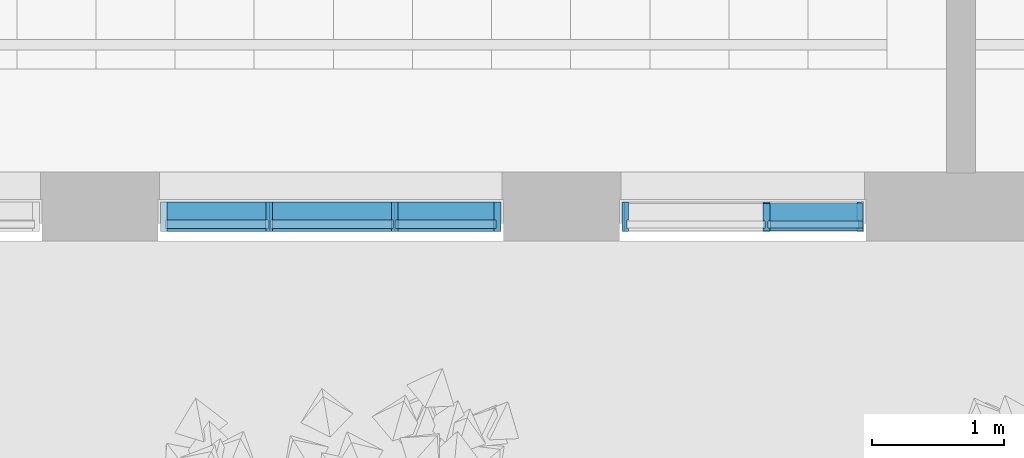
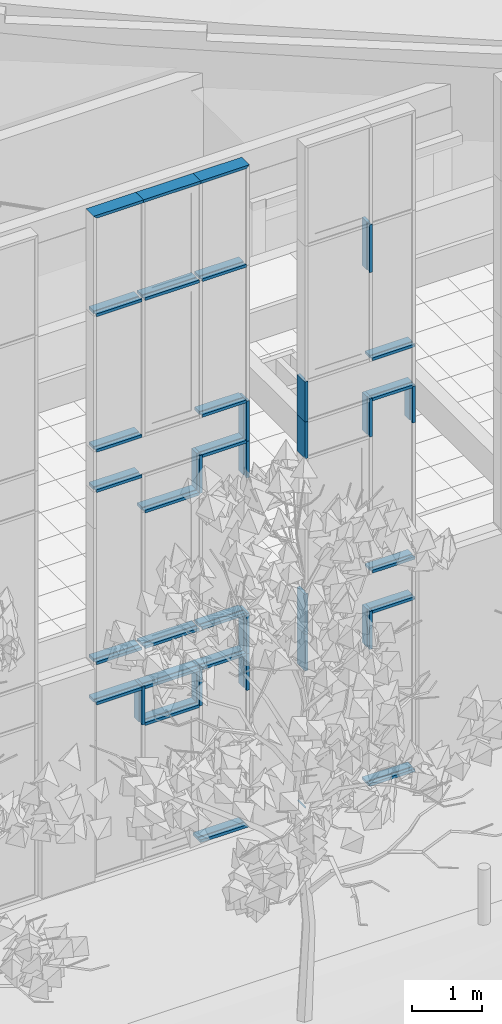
# One storey, part 43 of 246: 40 members, 2 elements without a shape of their own.
"""IFC2X3 building model written with IfcOpenShell, lengths in millimetres."""

from ifc_helpers import new_model, entity, si_unit, converted_unit, derived_unit, money_unit, direction, frame, origin_with_axes, place, context, subcontext, project, spatial, faceted_brep, source, transform, mapped, material, type_object, element, aggregate, save


model = new_model("IFC2X3")

# Units and contexts
model_context = context("Model", 3, precision=0.01, world=origin_with_axes(), true_north=direction((0.0, 1.0)))
body_context = subcontext(model_context, "Body", "Model", "MODEL_VIEW")
ifc_project = project(units=[si_unit("LENGTHUNIT", "METRE", prefix="MILLI"), si_unit("AREAUNIT", "SQUARE_METRE"), si_unit("VOLUMEUNIT", "CUBIC_METRE"), converted_unit("PLANEANGLEUNIT", "DEGREE", entity("IfcPlaneAngleMeasure", 0.0174532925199), si_unit("PLANEANGLEUNIT", "RADIAN"), dimensions=[0, 0, 0, 0, 0, 0, 0]), si_unit("SOLIDANGLEUNIT", "STERADIAN"), money_unit("EUR"), converted_unit("TIMEUNIT", "Year", entity("IfcTimeMeasure", 31556926.0), si_unit("TIMEUNIT", "SECOND"), dimensions=[0, 0, 1, 0, 0, 0, 0]), si_unit("MASSUNIT", "GRAM", prefix="KILO"), si_unit("THERMODYNAMICTEMPERATUREUNIT", "DEGREE_CELSIUS"), si_unit("LUMINOUSINTENSITYUNIT", "LUMEN"), si_unit("ENERGYUNIT", "JOULE", prefix="MEGA"), derived_unit("THERMALCONDUCTANCEUNIT", [(si_unit("POWERUNIT", "WATT"), 1), (si_unit("LENGTHUNIT", "METRE"), -1), (si_unit("THERMODYNAMICTEMPERATUREUNIT", "KELVIN"), -1)]), derived_unit("SPECIFICHEATCAPACITYUNIT", [(si_unit("ENERGYUNIT", "JOULE"), 1), (si_unit("MASSUNIT", "GRAM", prefix="KILO"), -1), (si_unit("THERMODYNAMICTEMPERATUREUNIT", "KELVIN"), -1)]), derived_unit("MASSDENSITYUNIT", [(si_unit("MASSUNIT", "GRAM", prefix="KILO"), 1), (si_unit("VOLUMEUNIT", "CUBIC_METRE"), -1)])], contexts=[model_context])

# Site, building, storey
site_placement = place(None, origin_with_axes())
site = spatial("IfcSite", under=ifc_project, at=site_placement, Name="L.Koidula tn 11b", CompositionType="ELEMENT")
building_placement = place(site_placement, origin_with_axes())
building = spatial("IfcBuilding", under=site, at=building_placement, Name="Rakvere Riigigümnaasium", CompositionType="ELEMENT")
storey_placement = place(building_placement, origin_with_axes())
storey = spatial("IfcBuildingStorey", under=building, at=storey_placement, Name="1.korrus 0,00", CompositionType="ELEMENT", Elevation=0.0)

# Curtain wall, members
curtain_wall_type = type_object("IfcCurtainWallType", Name="Curtain Wall Type", PredefinedType="NOTDEFINED")
curtain_wall_1_placement = place(storey_placement, frame((78309.9973345, 5111.43278481, -1.61944633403e-05), z_axis=(0.0, 0.0, 1.0), x_axis=(1.0, 0.0, 0.0)))
curtain_wall_1 = element("IfcCurtainWall", 1, at=curtain_wall_1_placement, inside=storey, type_object=curtain_wall_type, Name="KLF-05-3A")
ifc_material = material(Name="Alumiiniumprofiil (RAL 7021)")
member_type_1 = type_object("IfcMemberType", Name="Boundary Frame 50 x 222", PredefinedType="MULLION")
shared_shape_1 = source(origin_with_axes(), body_context, "Body", "Brep", [
    faceted_brep([(37.0, -32.5, 705.000000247), (37.0, 32.5, 705.000000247), (50.0, 32.5, 705.000000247), (50.0, 53.0, 705.000000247), (0.0, 53.0, 705.000000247), (0.0, -169.0, 705.000000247), (50.0, -169.0, 705.000000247), (50.0, -32.5, 705.000000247), (37.0, -32.5, 0.0), (37.0, 32.5, 0.0), (50.0, 32.5, 0.0), (50.0, 53.0, 0.0), (0.0, 53.0, 0.0), (0.0, -169.0, 0.0), (50.0, -169.0, 0.0), (50.0, -32.5, 0.0)], [[[0, 1, 2, 3, 4, 5, 6, 7]], [[1, 0, 8, 9]], [[10, 2, 1, 9]], [[2, 10, 11, 3]], [[12, 4, 3, 11]], [[13, 5, 4, 12]], [[14, 6, 5, 13]], [[15, 7, 6, 14]], [[0, 7, 15, 8]], [[8, 15, 14, 13, 12, 11, 10, 9]]]),
])
member_1_placement = place(curtain_wall_1_placement, frame((1279.99946018, -0.0202452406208, 6760.0), z_axis=(0.0, 0.0, 1.0), x_axis=(-0.999999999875, 1.58166009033e-05, 0.0)))
member_1 = element("IfcMember", 2, at=member_1_placement, type_object=member_type_1, material=ifc_material, Name="KLF-05-0A-Profiilid", ObjectType="MULLION", context=body_context, shape_type="MappedRepresentation", body=[
    mapped(shared_shape_1, transform((0.0, 0.0, 0.0))),
])
member_2_placement = place(curtain_wall_1_placement, frame((1279.99946018, -0.0202452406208, 3040.0), z_axis=(0.0, 0.0, 1.0), x_axis=(-0.999999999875, 1.58166009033e-05, 0.0)))
member_2 = element("IfcMember", 3, at=member_2_placement, type_object=member_type_1, material=ifc_material, Name="KLF-05-7A-Profiilid", ObjectType="MULLION", context=body_context, shape_type="MappedRepresentation", body=[
    mapped(shared_shape_1, transform((0.0, 0.0, 0.0))),
])
shared_shape_2 = source(origin_with_axes(), body_context, "Body", "Brep", [
    faceted_brep([(37.0, -32.5, 640.0), (37.0, 32.5, 640.0), (50.0, 32.5, 640.0), (50.0, 53.0, 640.0), (0.0, 53.0, 640.0), (0.0, -169.0, 640.0), (50.0, -169.0, 640.0), (50.0, -32.5, 640.0), (37.0, -32.5, 0.0), (37.0, 32.5, 0.0), (50.0, 32.5, 0.0), (50.0, 53.0, 0.0), (0.0, 53.0, 0.0), (0.0, -169.0, 0.0), (50.0, -169.0, 0.0), (50.0, -32.5, 0.0)], [[[0, 1, 2, 3, 4, 5, 6, 7]], [[1, 0, 8, 9]], [[10, 2, 1, 9]], [[2, 10, 11, 3]], [[12, 4, 3, 11]], [[13, 5, 4, 12]], [[14, 6, 5, 13]], [[15, 7, 6, 14]], [[0, 7, 15, 8]], [[8, 15, 14, 13, 12, 11, 10, 9]]]),
])
member_3_placement = place(curtain_wall_1_placement, frame((1279.99946018, -0.0202452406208, 6120.0), z_axis=(0.0, 0.0, 1.0), x_axis=(-0.999999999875, 1.58166009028e-05, 0.0)))
member_3 = element("IfcMember", 4, at=member_3_placement, type_object=member_type_1, material=ifc_material, Name="KLF-05-9A-Profiilid", ObjectType="MULLION", context=body_context, shape_type="MappedRepresentation", body=[
    mapped(shared_shape_2, transform((0.0, 0.0, 0.0))),
])
member_4_placement = place(curtain_wall_1_placement, frame((1279.99946018, -0.0202452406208, 2400.0), z_axis=(0.0, 0.0, 1.0), x_axis=(-0.999999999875, 1.58166009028e-05, 0.0)))
member_4 = element("IfcMember", 5, at=member_4_placement, type_object=member_type_1, material=ifc_material, Name="KLF-05-6A-Profiilid", ObjectType="MULLION", context=body_context, shape_type="MappedRepresentation", body=[
    mapped(shared_shape_2, transform((0.0, 0.0, 0.0))),
])

curtain_wall_2_placement = place(storey_placement, frame((81464.0000846, 5111.45334637, -8.09717250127e-06), z_axis=(0.0, 0.0, 1.0), x_axis=(1.0, 0.0, 0.0)))
curtain_wall_2 = element("IfcCurtainWall", 6, at=curtain_wall_2_placement, inside=storey, type_object=curtain_wall_type, Name="KLF-05-2A")
member_5_placement = place(curtain_wall_2_placement, frame((876.000206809, 0.0, 6120.0), z_axis=(0.0, 0.0, 1.0), x_axis=(-1.0, 0.0, 0.0)))
member_5 = element("IfcMember", 7, at=member_5_placement, type_object=member_type_1, material=ifc_material, Name="KLF-05-6A-Profiilid", ObjectType="MULLION", context=body_context, shape_type="MappedRepresentation", body=[
    mapped(shared_shape_2, transform((0.0, 0.0, 0.0))),
])
shared_shape_3 = source(origin_with_axes(), body_context, "Body", "Brep", [
    faceted_brep([(-37.0, -32.5, 705.0), (-50.0, -32.5, 705.0), (-50.0, -169.0, 705.0), (0.0, -169.0, 705.0), (0.0, 53.0, 705.0), (-50.0, 53.0, 705.0), (-50.0, 32.5, 705.0), (-37.0, 32.5, 705.0), (-37.0, -32.5, 0.0), (-50.0, -32.5, 0.0), (-50.0, -169.0, 0.0), (0.0, -169.0, 0.0), (0.0, 53.0, 0.0), (-50.0, 53.0, 0.0), (-50.0, 32.5, 0.0), (-37.0, 32.5, 0.0)], [[[0, 1, 2, 3, 4, 5, 6, 7]], [[0, 8, 9, 1]], [[9, 10, 2, 1]], [[10, 11, 3, 2]], [[11, 12, 4, 3]], [[12, 13, 5, 4]], [[6, 5, 13, 14]], [[14, 15, 7, 6]], [[7, 15, 8, 0]], [[8, 15, 14, 13, 12, 11, 10, 9]]]),
])
member_6_placement = place(curtain_wall_2_placement, frame((-954.000087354, 0.0, 3040.0), z_axis=(0.0, 0.0, 1.0), x_axis=(-1.0, 0.0, 0.0)))
member_6 = element("IfcMember", 8, at=member_6_placement, type_object=member_type_1, material=ifc_material, Name="KLF-05-7A-Profiilid", ObjectType="MULLION", context=body_context, shape_type="MappedRepresentation", body=[
    mapped(shared_shape_3, transform((0.0, 0.0, 0.0))),
])
member_7_placement = place(curtain_wall_2_placement, frame((-954.000087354, 0.0, 6760.0), z_axis=(0.0, 0.0, 1.0), x_axis=(-1.0, 0.0, 0.0)))
member_7 = element("IfcMember", 9, at=member_7_placement, type_object=member_type_1, material=ifc_material, Name="KLF-05-4A-Profiilid", ObjectType="MULLION", context=body_context, shape_type="MappedRepresentation", body=[
    mapped(shared_shape_3, transform((0.0, 0.0, 0.0))),
])
shared_shape_4 = source(origin_with_axes(), body_context, "Body", "Brep", [
    faceted_brep([(-37.0, -32.5, 640.0), (-50.0, -32.5, 640.0), (-50.0, -169.0, 640.0), (0.0, -169.0, 640.0), (0.0, 53.0, 640.0), (-50.0, 53.0, 640.0), (-50.0, 32.5, 640.0), (-37.0, 32.5, 640.0), (-37.0, -32.5, 0.0), (-50.0, -32.5, 0.0), (-50.0, -169.0, 0.0), (0.0, -169.0, 0.0), (0.0, 53.0, 0.0), (-50.0, 53.0, 0.0), (-50.0, 32.5, 0.0), (-37.0, 32.5, 0.0)], [[[0, 1, 2, 3, 4, 5, 6, 7]], [[0, 8, 9, 1]], [[9, 10, 2, 1]], [[10, 11, 3, 2]], [[11, 12, 4, 3]], [[12, 13, 5, 4]], [[6, 5, 13, 14]], [[14, 15, 7, 6]], [[7, 15, 8, 0]], [[8, 15, 14, 13, 12, 11, 10, 9]]]),
])
member_8_placement = place(curtain_wall_2_placement, frame((-954.000087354, 0.0, 2400.0), z_axis=(0.0, 0.0, 1.0), x_axis=(-1.0, 0.0, 0.0)))
member_8 = element("IfcMember", 10, at=member_8_placement, type_object=member_type_1, material=ifc_material, Name="KLF-05-8A-Profiilid", ObjectType="MULLION", context=body_context, shape_type="MappedRepresentation", body=[
    mapped(shared_shape_4, transform((0.0, 0.0, 0.0))),
])
member_9_placement = place(curtain_wall_2_placement, frame((-954.000087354, 0.0, 6120.0), z_axis=(0.0, 0.0, 1.0), x_axis=(-1.0, 0.0, 0.0)))
member_9 = element("IfcMember", 11, at=member_9_placement, type_object=member_type_1, material=ifc_material, Name="KLF-05-5A-Profiilid", ObjectType="MULLION", context=body_context, shape_type="MappedRepresentation", body=[
    mapped(shared_shape_4, transform((0.0, 0.0, 0.0))),
])

# Member
member_type_2 = type_object("IfcMemberType", Name="Transom Frame 50 x 222", PredefinedType="MULLION")
shared_shape_5 = source(origin_with_axes(), body_context, "Body", "Brep", [
    faceted_brep([(-12.0, -32.5, 925.0), (-25.0, -32.5, 925.0), (-25.0, -169.0, 925.0), (25.0, -169.0, 925.0), (25.0, -32.5, 925.0), (12.0, -32.5, 925.0), (12.0, 32.5, 925.0), (25.0, 32.5, 925.0), (25.0, 53.0, 925.0), (-25.0, 53.0, 925.0), (-25.0, 32.5, 925.0), (-12.0, 32.5, 925.0), (-12.0, -32.5, 25.0), (-25.0, -32.5, 25.0), (-25.0, -169.0, 25.0), (25.0, -169.0, 25.0), (25.0, -32.5, 25.0), (12.0, -32.5, 25.0), (12.0, 32.5, 25.0), (25.0, 32.5, 25.0), (25.0, 53.0, 25.0), (-25.0, 53.0, 25.0), (-25.0, 32.5, 25.0), (-12.0, 32.5, 25.0)], [[[0, 1, 2, 3, 4, 5, 6, 7, 8, 9, 10, 11]], [[1, 0, 12, 13]], [[1, 13, 14, 2]], [[2, 14, 15, 3]], [[4, 3, 15, 16]], [[4, 16, 17, 5]], [[5, 17, 18, 6]], [[7, 6, 18, 19]], [[19, 20, 8, 7]], [[8, 20, 21, 9]], [[22, 10, 9, 21]], [[11, 10, 22, 23]], [[0, 11, 23, 12]], [[23, 22, 21, 20, 19, 18, 17, 16, 15, 14, 13, 12]]]),
])
member_10_placement = place(curtain_wall_1_placement, frame((-474.999999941, 0.00751288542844, 6120.0), z_axis=(0.999999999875, -1.58166009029e-05, 0.0), x_axis=(0.0, 0.0, 1.0)))
member_10 = element("IfcMember", 12, at=member_10_placement, type_object=member_type_2, material=ifc_material, Name="KLF-05-3A-Profiilid", ObjectType="MULLION", context=body_context, shape_type="MappedRepresentation", body=[
    mapped(shared_shape_5, transform((0.0, 0.0, 0.0))),
])

member_11_placement = place(curtain_wall_1_placement, frame((-474.999999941, 0.00751288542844, 3745.0), z_axis=(0.999999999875, -1.58166009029e-05, 0.0), x_axis=(0.0, 0.0, 1.0)))
member_11 = element("IfcMember", 13, at=member_11_placement, type_object=member_type_2, material=ifc_material, Name="KLF-05-3A-Profiilid", ObjectType="MULLION", context=body_context, shape_type="MappedRepresentation", body=[
    mapped(shared_shape_5, transform((0.0, 0.0, 0.0))),
])

member_12_placement = place(curtain_wall_1_placement, frame((-474.999999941, 0.00751288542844, 2400.0), z_axis=(0.999999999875, -1.58166009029e-05, 0.0), x_axis=(0.0, 0.0, 1.0)))
member_12 = element("IfcMember", 14, at=member_12_placement, type_object=member_type_2, material=ifc_material, Name="KLF-05-3A-Profiilid", ObjectType="MULLION", context=body_context, shape_type="MappedRepresentation", body=[
    mapped(shared_shape_5, transform((0.0, 0.0, 0.0))),
])

member_13_placement = place(curtain_wall_1_placement, frame((-474.999999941, 0.00751288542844, 3040.0), z_axis=(0.999999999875, -1.58166009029e-05, 0.0), x_axis=(0.0, 0.0, 1.0)))
member_13 = element("IfcMember", 15, at=member_13_placement, type_object=member_type_2, material=ifc_material, Name="KLF-05-3A-Profiilid", ObjectType="MULLION", context=body_context, shape_type="MappedRepresentation", body=[
    mapped(shared_shape_5, transform((0.0, 0.0, 0.0))),
])

member_14_placement = place(curtain_wall_1_placement, frame((-474.999999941, 0.00751288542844, 9840.0), z_axis=(0.999999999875, -1.58166009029e-05, 0.0), x_axis=(0.0, 0.0, 1.0)))
member_14 = element("IfcMember", 16, at=member_14_placement, type_object=member_type_2, material=ifc_material, Name="KLF-05-6A-Profiilid", ObjectType="MULLION", context=body_context, shape_type="MappedRepresentation", body=[
    mapped(shared_shape_5, transform((0.0, 0.0, 0.0))),
])

member_type_3 = type_object("IfcMemberType", Name="Mullion Frame 50 x 222", PredefinedType="MULLION")
shared_shape_6 = source(origin_with_axes(), body_context, "Body", "Brep", [
    faceted_brep([(-12.0, -32.5, 665.0), (-25.0, -32.5, 665.0), (-25.0, -169.0, 665.0), (25.0, -169.0, 665.0), (25.0, -32.5, 665.0), (12.0, -32.5, 665.0), (12.0, 32.5, 665.0), (25.0, 32.5, 665.0), (25.0, 53.0, 665.0), (-25.0, 53.0, 665.0), (-25.0, 32.5, 665.0), (-12.0, 32.5, 665.0), (-12.0, -32.5, 0.0), (-25.0, -32.5, 0.0), (-25.0, -169.0, 0.0), (25.0, -169.0, 0.0), (25.0, -32.5, 0.0), (12.0, -32.5, 0.0), (12.0, 32.5, 0.0), (25.0, 32.5, 0.0), (25.0, 53.0, 0.0), (-25.0, 53.0, 0.0), (-25.0, 32.5, 0.0), (-12.0, 32.5, 0.0)], [[[0, 1, 2, 3, 4, 5, 6, 7, 8, 9, 10, 11]], [[1, 0, 12, 13]], [[1, 13, 14, 2]], [[3, 2, 14, 15]], [[4, 3, 15, 16]], [[4, 16, 17, 5]], [[5, 17, 18, 6]], [[7, 6, 18, 19]], [[19, 20, 8, 7]], [[9, 8, 20, 21]], [[22, 10, 9, 21]], [[11, 10, 22, 23]], [[0, 11, 23, 12]], [[23, 22, 21, 20, 19, 18, 17, 16, 15, 14, 13, 12]]]),
])
member_15_placement = place(curtain_wall_1_placement, frame((474.999999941, -0.00751288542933, 2400.0), z_axis=(0.0, 0.0, 1.0), x_axis=(-0.999999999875, 1.58166009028e-05, 0.0)))
member_15 = element("IfcMember", 17, at=member_15_placement, type_object=member_type_3, material=ifc_material, Name="KLF-05-3A-Profiilid", ObjectType="MULLION", context=body_context, shape_type="MappedRepresentation", body=[
    mapped(shared_shape_6, transform((0.0, 0.0, 0.0))),
])

member_16_placement = place(curtain_wall_1_placement, frame((474.999999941, -0.00751288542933, 6120.0), z_axis=(0.0, 0.0, 1.0), x_axis=(-0.999999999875, 1.58166009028e-05, 0.0)))
member_16 = element("IfcMember", 18, at=member_16_placement, type_object=member_type_3, material=ifc_material, Name="KLF-05-3A-Profiilid", ObjectType="MULLION", context=body_context, shape_type="MappedRepresentation", body=[
    mapped(shared_shape_6, transform((0.0, 0.0, 0.0))),
])

member_17_placement = place(curtain_wall_1_placement, frame((-474.999999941, 0.00751288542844, 2400.0), z_axis=(0.0, 0.0, 1.0), x_axis=(-0.999999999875, 1.58166009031e-05, 0.0)))
member_17 = element("IfcMember", 19, at=member_17_placement, type_object=member_type_3, material=ifc_material, Name="KLF-05-3A-Profiilid", ObjectType="MULLION", context=body_context, shape_type="MappedRepresentation", body=[
    mapped(shared_shape_6, transform((0.0, 0.0, 0.0))),
])

shared_shape_7 = source(origin_with_axes(), body_context, "Body", "Brep", [
    faceted_brep([(-12.0, -32.5, 755.000075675), (-25.0, -32.5, 755.000075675), (-25.0, -169.0, 755.000074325), (25.0, -169.0, 755.000074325), (25.0, -32.5, 755.000075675), (12.0, -32.5, 755.000075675), (12.0, 32.5, 755.000076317), (25.0, 32.5, 755.000076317), (25.0, 53.0, 755.00007652), (-25.0, 53.0, 755.00007652), (-25.0, 32.5, 755.000076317), (-12.0, 32.5, 755.000076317), (-12.0, -32.5, 25.0), (-25.0, -32.5, 25.0), (-25.0, -169.0, 25.0), (25.0, -169.0, 25.0), (25.0, -32.5, 25.0), (12.0, -32.5, 25.0), (12.0, 32.5, 25.0), (25.0, 32.5, 25.0), (25.0, 53.0, 25.0), (-25.0, 53.0, 25.0), (-25.0, 32.5, 25.0), (-12.0, 32.5, 25.0)], [[[0, 1, 2, 3, 4, 5, 6, 7, 8, 9, 10, 11]], [[1, 0, 12, 13]], [[1, 13, 14, 2]], [[2, 14, 15, 3]], [[4, 3, 15, 16]], [[4, 16, 17, 5]], [[5, 17, 18, 6]], [[7, 6, 18, 19]], [[19, 20, 8, 7]], [[8, 20, 21, 9]], [[22, 10, 9, 21]], [[11, 10, 22, 23]], [[0, 11, 23, 12]], [[23, 22, 21, 20, 19, 18, 17, 16, 15, 14, 13, 12]]]),
])
member_18_placement = place(curtain_wall_1_placement, frame((474.999999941, -0.00751288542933, 9840.0), z_axis=(0.999999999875, -1.58166009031e-05, 0.0), x_axis=(0.0, 0.0, 1.0)))
member_18 = element("IfcMember", 20, at=member_18_placement, type_object=member_type_2, material=ifc_material, Name="KLF-05-3A-Profiilid", ObjectType="MULLION", context=body_context, shape_type="MappedRepresentation", body=[
    mapped(shared_shape_7, transform((0.0, 0.0, 0.0))),
])

member_19_placement = place(curtain_wall_1_placement, frame((474.999999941, -0.00751288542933, 7465.0), z_axis=(0.999999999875, -1.58166009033e-05, 0.0), x_axis=(0.0, 0.0, 1.0)))
member_19 = element("IfcMember", 21, at=member_19_placement, type_object=member_type_2, material=ifc_material, Name="KLF-05-4A-Profiilid", ObjectType="MULLION", context=body_context, shape_type="MappedRepresentation", body=[
    mapped(shared_shape_7, transform((0.0, 0.0, 0.0))),
])

member_20_placement = place(curtain_wall_1_placement, frame((474.999999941, -0.00751288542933, 6760.0), z_axis=(0.999999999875, -1.58166009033e-05, 0.0), x_axis=(0.0, 0.0, 1.0)))
member_20 = element("IfcMember", 22, at=member_20_placement, type_object=member_type_2, material=ifc_material, Name="KLF-05-5A-Profiilid", ObjectType="MULLION", context=body_context, shape_type="MappedRepresentation", body=[
    mapped(shared_shape_7, transform((0.0, 0.0, 0.0))),
])

member_21_placement = place(curtain_wall_1_placement, frame((474.999999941, -0.00751288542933, 3745.0), z_axis=(0.999999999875, -1.58166009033e-05, 0.0), x_axis=(0.0, 0.0, 1.0)))
member_21 = element("IfcMember", 23, at=member_21_placement, type_object=member_type_2, material=ifc_material, Name="KLF-05-4A-Profiilid", ObjectType="MULLION", context=body_context, shape_type="MappedRepresentation", body=[
    mapped(shared_shape_7, transform((0.0, 0.0, 0.0))),
])

member_22_placement = place(curtain_wall_1_placement, frame((474.999999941, -0.00751288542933, 3040.0), z_axis=(0.999999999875, -1.58166009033e-05, 0.0), x_axis=(0.0, 0.0, 1.0)))
member_22 = element("IfcMember", 24, at=member_22_placement, type_object=member_type_2, material=ifc_material, Name="KLF-05-5A-Profiilid", ObjectType="MULLION", context=body_context, shape_type="MappedRepresentation", body=[
    mapped(shared_shape_7, transform((0.0, 0.0, 0.0))),
])

member_type_4 = type_object("IfcMemberType", Name="50 x 208", PredefinedType="MULLION")
shared_shape_8 = source(origin_with_axes(), body_context, "Body", "Brep", [
    faceted_brep([(-12.0, -27.0, 730.000256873), (-25.0, -27.0, 730.000256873), (-25.0, -160.0, 730.000256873), (25.0, -160.0, 730.000256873), (25.0, -27.0, 730.000256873), (12.0, -27.0, 730.000256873), (12.0, 27.0, 730.000256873), (25.0, 27.0, 730.000256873), (25.0, 48.0, 730.000256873), (-25.0, 48.0, 730.000256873), (-25.0, 27.0, 730.000256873), (-12.0, 27.0, 730.000256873), (-12.0, -27.0, 25.0), (-25.0, -27.0, 25.0), (-25.0, -160.0, 25.0), (25.0, -160.0, 25.0), (25.0, -27.0, 25.0), (12.0, -27.0, 25.0), (12.0, 27.0, 25.0), (25.0, 27.0, 25.0), (25.0, 48.0, 25.0), (-25.0, 48.0, 25.0), (-25.0, 27.0, 25.0), (-12.0, 27.0, 25.0)], [[[0, 1, 2, 3, 4, 5, 6, 7, 8, 9, 10, 11]], [[1, 0, 12, 13]], [[1, 13, 14, 2]], [[2, 14, 15, 3]], [[4, 3, 15, 16]], [[4, 16, 17, 5]], [[5, 17, 18, 6]], [[7, 6, 18, 19]], [[19, 20, 8, 7]], [[8, 20, 21, 9]], [[22, 10, 9, 21]], [[11, 10, 22, 23]], [[0, 11, 23, 12]], [[23, 22, 21, 20, 19, 18, 17, 16, 15, 14, 13, 12]]]),
])
member_23_placement = place(curtain_wall_2_placement, frame((140.999912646, 0.0, 6760.0), z_axis=(1.0, 0.0, 0.0), x_axis=(0.0, 0.0, 1.0)))
member_23 = element("IfcMember", 25, at=member_23_placement, type_object=member_type_4, material=ifc_material, Name="KLF-33", ObjectType="MULLION", context=body_context, shape_type="MappedRepresentation", body=[
    mapped(shared_shape_8, transform((0.0, 0.0, 0.0))),
])

member_24_placement = place(curtain_wall_2_placement, frame((140.999912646, 0.0, 3745.0), z_axis=(1.0, 0.0, 0.0), x_axis=(0.0, 0.0, 1.0)))
member_24 = element("IfcMember", 26, at=member_24_placement, type_object=member_type_4, material=ifc_material, Name="KLF-08", ObjectType="MULLION", context=body_context, shape_type="MappedRepresentation", body=[
    mapped(shared_shape_8, transform((0.0, 0.0, 0.0))),
])

member_25_placement = place(curtain_wall_2_placement, frame((140.999912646, 0.0, 7465.0), z_axis=(1.0, 0.0, 0.0), x_axis=(0.0, 0.0, 1.0)))
member_25 = element("IfcMember", 27, at=member_25_placement, type_object=member_type_4, material=ifc_material, Name="KLF-57", ObjectType="MULLION", context=body_context, shape_type="MappedRepresentation", body=[
    mapped(shared_shape_8, transform((0.0, 0.0, 0.0))),
])

member_26_placement = place(curtain_wall_2_placement, frame((140.999912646, 0.0, 3040.0), z_axis=(1.0, 0.0, 0.0), x_axis=(0.0, 0.0, 1.0)))
member_26 = element("IfcMember", 28, at=member_26_placement, type_object=member_type_4, material=ifc_material, Name="KLF-09", ObjectType="MULLION", context=body_context, shape_type="MappedRepresentation", body=[
    mapped(shared_shape_8, transform((0.0, 0.0, 0.0))),
])

shared_shape_9 = source(origin_with_axes(), body_context, "Body", "Brep", [
    faceted_brep([(-12.0, -32.5, 800.0), (-25.0, -32.5, 800.0), (-25.0, -169.0, 800.0), (25.0, -169.0, 800.0), (25.0, -32.5, 800.0), (12.0, -32.5, 800.0), (12.0, 32.5, 800.0), (25.0, 32.5, 800.0), (25.0, 53.0, 800.0), (-25.0, 53.0, 800.0), (-25.0, 32.5, 800.0), (-12.0, 32.5, 800.0), (-12.0, -32.5, 50.0), (-25.0, -32.5, 50.0), (-25.0, -169.0, 50.0), (25.0, -169.0, 50.0), (25.0, -32.5, 50.0), (12.0, -32.5, 50.0), (12.0, 32.5, 50.0), (25.0, 32.5, 50.0), (25.0, 53.0, 50.0), (-25.0, 53.0, 50.0), (-25.0, 32.5, 50.0), (-12.0, 32.5, 50.0)], [[[0, 1, 2, 3, 4, 5, 6, 7, 8, 9, 10, 11]], [[1, 0, 12, 13]], [[1, 13, 14, 2]], [[2, 14, 15, 3]], [[4, 3, 15, 16]], [[4, 16, 17, 5]], [[5, 17, 18, 6]], [[7, 6, 18, 19]], [[19, 20, 8, 7]], [[8, 20, 21, 9]], [[22, 10, 9, 21]], [[11, 10, 22, 23]], [[0, 11, 23, 12]], [[23, 22, 21, 20, 19, 18, 17, 16, 15, 14, 13, 12]]]),
])
member_27_placement = place(curtain_wall_1_placement, frame((-1299.99999984, 0.0205615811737, 7465.0), z_axis=(0.999999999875, -1.58166009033e-05, 0.0), x_axis=(0.0, 0.0, 1.0)))
member_27 = element("IfcMember", 29, at=member_27_placement, type_object=member_type_2, material=ifc_material, Name="KLF-05-3A-Profiilid", ObjectType="MULLION", context=body_context, shape_type="MappedRepresentation", body=[
    mapped(shared_shape_9, transform((0.0, 0.0, 0.0))),
])

member_28_placement = place(curtain_wall_1_placement, frame((-1299.99999984, 0.0205615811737, 6760.0), z_axis=(0.999999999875, -1.58166009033e-05, 0.0), x_axis=(0.0, 0.0, 1.0)))
member_28 = element("IfcMember", 30, at=member_28_placement, type_object=member_type_2, material=ifc_material, Name="KLF-05-3A-Profiilid", ObjectType="MULLION", context=body_context, shape_type="MappedRepresentation", body=[
    mapped(shared_shape_9, transform((0.0, 0.0, 0.0))),
])

member_29_placement = place(curtain_wall_1_placement, frame((-1299.99999984, 0.0205615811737, 3745.0), z_axis=(0.999999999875, -1.58166009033e-05, 0.0), x_axis=(0.0, 0.0, 1.0)))
member_29 = element("IfcMember", 31, at=member_29_placement, type_object=member_type_2, material=ifc_material, Name="KLF-05-3A-Profiilid", ObjectType="MULLION", context=body_context, shape_type="MappedRepresentation", body=[
    mapped(shared_shape_9, transform((0.0, 0.0, 0.0))),
])

member_30_placement = place(curtain_wall_1_placement, frame((-1299.99999984, 0.0205615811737, 3040.0), z_axis=(0.999999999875, -1.58166009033e-05, 0.0), x_axis=(0.0, 0.0, 1.0)))
member_30 = element("IfcMember", 32, at=member_30_placement, type_object=member_type_2, material=ifc_material, Name="KLF-05-3A-Profiilid", ObjectType="MULLION", context=body_context, shape_type="MappedRepresentation", body=[
    mapped(shared_shape_9, transform((0.0, 0.0, 0.0))),
])

member_31_placement = place(curtain_wall_1_placement, frame((-1299.99999984, 0.0205615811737, 9840.0), z_axis=(0.999999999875, -1.58166009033e-05, 0.0), x_axis=(0.0, 0.0, 1.0)))
member_31 = element("IfcMember", 33, at=member_31_placement, type_object=member_type_2, material=ifc_material, Name="KLF-05-5A-Profiilid", ObjectType="MULLION", context=body_context, shape_type="MappedRepresentation", body=[
    mapped(shared_shape_9, transform((0.0, 0.0, 0.0))),
])

shared_shape_10 = source(origin_with_axes(), body_context, "Body", "Brep", [
    faceted_brep([(-12.0, -27.0, 665.0), (-25.0, -27.0, 665.0), (-25.0, -160.0, 665.0), (25.0, -160.0, 665.0), (25.0, -27.0, 665.0), (12.0, -27.0, 665.0), (12.0, 27.0, 665.0), (25.0, 27.0, 665.0), (25.0, 48.0, 665.0), (-25.0, 48.0, 665.0), (-25.0, 27.0, 665.0), (-12.0, 27.0, 665.0), (-12.0, -27.0, 0.0), (-25.0, -27.0, 0.0), (-25.0, -160.0, 0.0), (25.0, -160.0, 0.0), (25.0, -27.0, 0.0), (12.0, -27.0, 0.0), (12.0, 27.0, 0.0), (25.0, 27.0, 0.0), (25.0, 48.0, 0.0), (-25.0, 48.0, 0.0), (-25.0, 27.0, 0.0), (-12.0, 27.0, 0.0)], [[[0, 1, 2, 3, 4, 5, 6, 7, 8, 9, 10, 11]], [[1, 0, 12, 13]], [[1, 13, 14, 2]], [[3, 2, 14, 15]], [[4, 3, 15, 16]], [[4, 16, 17, 5]], [[5, 17, 18, 6]], [[7, 6, 18, 19]], [[19, 20, 8, 7]], [[9, 8, 20, 21]], [[22, 10, 9, 21]], [[11, 10, 22, 23]], [[0, 11, 23, 12]], [[23, 22, 21, 20, 19, 18, 17, 16, 15, 14, 13, 12]]]),
])
member_32_placement = place(curtain_wall_2_placement, frame((140.999912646, 0.0, 2400.0), z_axis=(0.0, 0.0, 1.0), x_axis=(-1.0, 0.0, 0.0)))
member_32 = element("IfcMember", 34, at=member_32_placement, type_object=member_type_4, material=ifc_material, Name="KLF-41", ObjectType="MULLION", context=body_context, shape_type="MappedRepresentation", body=[
    mapped(shared_shape_10, transform((0.0, 0.0, 0.0))),
])

member_33_placement = place(curtain_wall_2_placement, frame((140.999912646, 0.0, 6120.0), z_axis=(0.0, 0.0, 1.0), x_axis=(-1.0, 0.0, 0.0)))
member_33 = element("IfcMember", 35, at=member_33_placement, type_object=member_type_4, material=ifc_material, Name="KLF-96", ObjectType="MULLION", context=body_context, shape_type="MappedRepresentation", body=[
    mapped(shared_shape_10, transform((0.0, 0.0, 0.0))),
])

shared_shape_11 = source(origin_with_axes(), body_context, "Body", "Brep", [
    faceted_brep([(-12.0, -32.5, 840.0), (-25.0, -32.5, 840.0), (-25.0, -169.0, 840.0), (25.0, -169.0, 840.0), (25.0, -32.5, 840.0), (12.0, -32.5, 840.0), (12.0, 32.5, 840.0), (25.0, 32.5, 840.0), (25.0, 53.0, 840.0), (-25.0, 53.0, 840.0), (-25.0, 32.5, 840.0), (-12.0, 32.5, 840.0), (-12.0, -32.5, 0.0), (-25.0, -32.5, 0.0), (-25.0, -169.0, 0.0), (25.0, -169.0, 0.0), (25.0, -32.5, 0.0), (12.0, -32.5, 0.0), (12.0, 32.5, 0.0), (25.0, 32.5, 0.0), (25.0, 53.0, 0.0), (-25.0, 53.0, 0.0), (-25.0, 32.5, 0.0), (-12.0, 32.5, 0.0)], [[[0, 1, 2, 3, 4, 5, 6, 7, 8, 9, 10, 11]], [[1, 0, 12, 13]], [[1, 13, 14, 2]], [[3, 2, 14, 15]], [[4, 3, 15, 16]], [[4, 16, 17, 5]], [[5, 17, 18, 6]], [[7, 6, 18, 19]], [[19, 20, 8, 7]], [[9, 8, 20, 21]], [[22, 10, 9, 21]], [[11, 10, 22, 23]], [[0, 11, 23, 12]], [[23, 22, 21, 20, 19, 18, 17, 16, 15, 14, 13, 12]]]),
])
member_34_placement = place(curtain_wall_2_placement, frame((140.999912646, 0.0, 9000.0), z_axis=(0.0, 0.0, 1.0), x_axis=(-1.0, 0.0, 0.0)))
member_34 = element("IfcMember", 36, at=member_34_placement, type_object=member_type_3, material=ifc_material, Name="KLF-05-3A-Profiilid", ObjectType="MULLION", context=body_context, shape_type="MappedRepresentation", body=[
    mapped(shared_shape_11, transform((0.0, 0.0, 0.0))),
])

shared_shape_12 = source(origin_with_axes(), body_context, "Body", "Brep", [
    faceted_brep([(37.0, -32.5, 950.0), (37.0, 32.5, 950.0), (50.0, 32.5, 950.0), (50.0, 53.0, 950.0), (0.0, 53.0, 950.0), (0.0, -169.0, 950.0), (50.0, -169.0, 950.0), (50.0, -32.5, 950.0), (37.0, -32.5, 0.0), (37.0, 32.5, 0.0), (50.0, 32.5, 0.0), (50.0, 53.0, 0.0), (0.0, 53.0, 0.0), (0.0, -169.0, 0.0), (50.0, -169.0, 0.0), (50.0, -32.5, 0.0)], [[[0, 1, 2, 3, 4, 5, 6, 7]], [[1, 0, 8, 9]], [[10, 2, 1, 9]], [[2, 10, 11, 3]], [[12, 4, 3, 11]], [[13, 5, 4, 12]], [[14, 6, 5, 13]], [[15, 7, 6, 14]], [[0, 7, 15, 8]], [[8, 15, 14, 13, 12, 11, 10, 9]]]),
])
member_35_placement = place(curtain_wall_1_placement, frame((474.999999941, -0.00751288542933, 11590.0000411), z_axis=(-0.999999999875, 1.58166009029e-05, 0.0), x_axis=(0.0, 0.0, -1.0)))
member_35 = element("IfcMember", 37, at=member_35_placement, type_object=member_type_1, material=ifc_material, Name="KLF-05-4A-Profiilid", ObjectType="MULLION", context=body_context, shape_type="MappedRepresentation", body=[
    mapped(shared_shape_12, transform((0.0, 0.0, 0.0))),
])

shared_shape_13 = source(origin_with_axes(), body_context, "Body", "Brep", [
    faceted_brep([(37.0, -32.5, 768.000099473), (37.0, 32.5, 768.000099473), (50.0, 32.5, 755.000099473), (50.0, 53.0, 755.000099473), (0.0, 53.0, 805.000099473), (0.0, -169.0, 805.000099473), (50.0, -169.0, 755.000099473), (50.0, -32.5, 755.000099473), (37.0, -32.5, 0.0), (37.0, 32.5, 0.0), (50.0, 32.5, 0.0), (50.0, 53.0, 0.0), (0.0, 53.0, 0.0), (0.0, -169.0, 0.0), (50.0, -169.0, 0.0), (50.0, -32.5, 0.0)], [[[0, 1, 2, 3, 4, 5, 6, 7]], [[1, 0, 8, 9]], [[10, 2, 1, 9]], [[2, 10, 11, 3]], [[12, 4, 3, 11]], [[13, 5, 4, 12]], [[14, 6, 5, 13]], [[15, 7, 6, 14]], [[0, 7, 15, 8]], [[8, 15, 14, 13, 12, 11, 10, 9]]]),
])
member_36_placement = place(curtain_wall_1_placement, frame((474.999999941, -0.00751288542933, 0.0), z_axis=(0.999999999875, -1.58166009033e-05, 0.0), x_axis=(0.0, 0.0, 1.0)))
member_36 = element("IfcMember", 38, at=member_36_placement, type_object=member_type_1, material=ifc_material, Name="KLF-05-4A-Profiilid", ObjectType="MULLION", context=body_context, shape_type="MappedRepresentation", body=[
    mapped(shared_shape_13, transform((0.0, 0.0, 0.0))),
])

shared_shape_14 = source(origin_with_axes(), body_context, "Body", "Brep", [
    faceted_brep([(37.0, -32.5, 805.000075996), (37.0, 32.5, 805.000075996), (50.0, 32.5, 805.000075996), (50.0, 53.0, 805.000075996), (0.0, 53.0, 805.000075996), (0.0, -169.0, 805.000075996), (50.0, -169.0, 805.000075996), (50.0, -32.5, 805.000075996), (37.0, -32.5, 37.0), (37.0, 32.5, 37.0), (50.0, 32.5, 50.0), (50.0, 53.0, 50.0), (0.0, 53.0, 0.0), (0.0, -169.0, 0.0), (50.0, -169.0, 50.0), (50.0, -32.5, 50.0)], [[[0, 1, 2, 3, 4, 5, 6, 7]], [[1, 0, 8, 9]], [[10, 2, 1, 9]], [[2, 10, 11, 3]], [[4, 3, 11, 12]], [[5, 4, 12, 13]], [[6, 5, 13, 14]], [[15, 7, 6, 14]], [[0, 7, 15, 8]], [[8, 15, 14, 13, 12, 11, 10, 9]]]),
])
member_37_placement = place(curtain_wall_1_placement, frame((1279.99953334, -0.0202452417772, 11590.0000411), z_axis=(-0.999999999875, 1.58166009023e-05, 0.0), x_axis=(0.0, 0.0, -1.0)))
member_37 = element("IfcMember", 39, at=member_37_placement, type_object=member_type_1, material=ifc_material, Name="KLF-05-3A-Profiilid", ObjectType="MULLION", context=body_context, shape_type="MappedRepresentation", body=[
    mapped(shared_shape_14, transform((0.0, 0.0, 0.0))),
])

shared_shape_15 = source(origin_with_axes(), body_context, "Body", "Brep", [
    faceted_brep([(37.0, -27.0, 730.000256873), (37.0, 27.0, 730.000256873), (50.0, 27.0, 730.000256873), (50.0, 48.0, 730.000256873), (0.0, 48.0, 730.000256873), (0.0, -160.0, 730.000256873), (50.0, -160.0, 730.000256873), (50.0, -27.0, 730.000256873), (37.0, -27.0, -25.0), (37.0, 27.0, -25.0), (50.0, 27.0, -25.0), (50.0, 48.0, -25.0), (0.0, 48.0, -25.0), (0.0, -160.0, -25.0), (50.0, -160.0, -25.0), (50.0, -27.0, -25.0)], [[[0, 1, 2, 3, 4, 5, 6, 7]], [[1, 0, 8, 9]], [[10, 2, 1, 9]], [[2, 10, 11, 3]], [[12, 4, 3, 11]], [[13, 5, 4, 12]], [[14, 6, 5, 13]], [[15, 7, 6, 14]], [[0, 7, 15, 8]], [[8, 15, 14, 13, 12, 11, 10, 9]]]),
])
member_38_placement = place(curtain_wall_2_placement, frame((140.999912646, 0.0, 0.0), z_axis=(1.0, 0.0, 0.0), x_axis=(0.0, 0.0, 1.0)))
member_38 = element("IfcMember", 40, at=member_38_placement, type_object=member_type_4, material=ifc_material, Name="KLF-55", ObjectType="MULLION", context=body_context, shape_type="MappedRepresentation", body=[
    mapped(shared_shape_15, transform((0.0, 0.0, 0.0))),
])

shared_shape_16 = source(origin_with_axes(), body_context, "Body", "Brep", [
    faceted_brep([(0.0, 53.0, 0.0), (0.0, 53.0, 19.999885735), (19.999885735, 53.0, 19.999885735), (0.0, -169.0, 0.0), (0.0, -169.0, 19.999885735), (19.999885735, -169.0, 19.999885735)], [[[0, 1, 2]], [[3, 4, 1, 0]], [[2, 1, 4, 5]], [[2, 5, 3, 0]], [[5, 4, 3]]]),
])
member_39_placement = place(curtain_wall_2_placement, frame((-954.000087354, 0.0, 0.0), z_axis=(1.0, 0.0, 0.0), x_axis=(0.0, 0.0, 1.0)))
member_39 = element("IfcMember", 41, at=member_39_placement, type_object=member_type_1, material=ifc_material, Name="KLF-05-0A-Profiilid", ObjectType="MULLION", context=body_context, shape_type="MappedRepresentation", body=[
    mapped(shared_shape_16, transform((0.0, 0.0, 0.0))),
])

aggregate(curtain_wall_2, [member_32, member_23, member_38, member_24, member_25, member_33, member_26, member_34, member_8, member_6, member_9, member_7, member_39, member_5])

shared_shape_17 = source(origin_with_axes(), body_context, "Body", "Brep", [
    faceted_brep([(37.0, -32.5, 788.0), (37.0, 32.5, 788.0), (50.0, 32.5, 775.0), (50.0, 53.0, 775.0), (0.0, 53.0, 825.0), (0.0, -169.0, 825.0), (50.0, -169.0, 775.0), (50.0, -32.5, 775.0), (37.0, -32.5, 0.0), (37.0, 32.5, 0.0), (50.0, 32.5, 0.0), (50.0, 53.0, 0.0), (0.0, 53.0, 0.0), (0.0, -169.0, 0.0), (50.0, -169.0, 0.0), (50.0, -32.5, 0.0)], [[[0, 1, 2, 3, 4, 5, 6, 7]], [[1, 0, 8, 9]], [[10, 2, 1, 9]], [[2, 10, 11, 3]], [[12, 4, 3, 11]], [[13, 5, 4, 12]], [[14, 6, 5, 13]], [[15, 7, 6, 14]], [[0, 7, 15, 8]], [[8, 15, 14, 13, 12, 11, 10, 9]]]),
])
member_40_placement = place(curtain_wall_1_placement, frame((-474.999999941, 0.00751288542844, 11590.0000411), z_axis=(-0.999999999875, 1.58166009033e-05, 0.0), x_axis=(0.0, 0.0, -1.0)))
member_40 = element("IfcMember", 42, at=member_40_placement, type_object=member_type_1, material=ifc_material, Name="KLF-05-5A-Profiilid", ObjectType="MULLION", context=body_context, shape_type="MappedRepresentation", body=[
    mapped(shared_shape_17, transform((0.0, 0.0, 0.0))),
])

aggregate(curtain_wall_1, [member_15, member_27, member_10, member_11, member_16, member_28, member_29, member_17, member_12, member_30, member_13, member_14, member_31, member_18, member_19, member_20, member_1, member_3, member_21, member_2, member_22, member_4, member_36, member_40, member_35, member_37])

save(model, "model.ifc")
